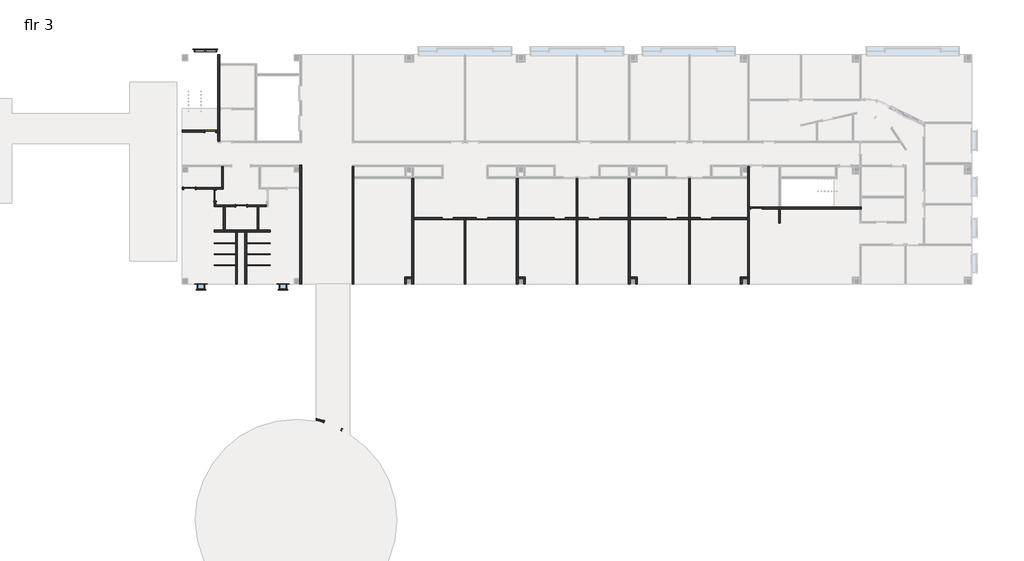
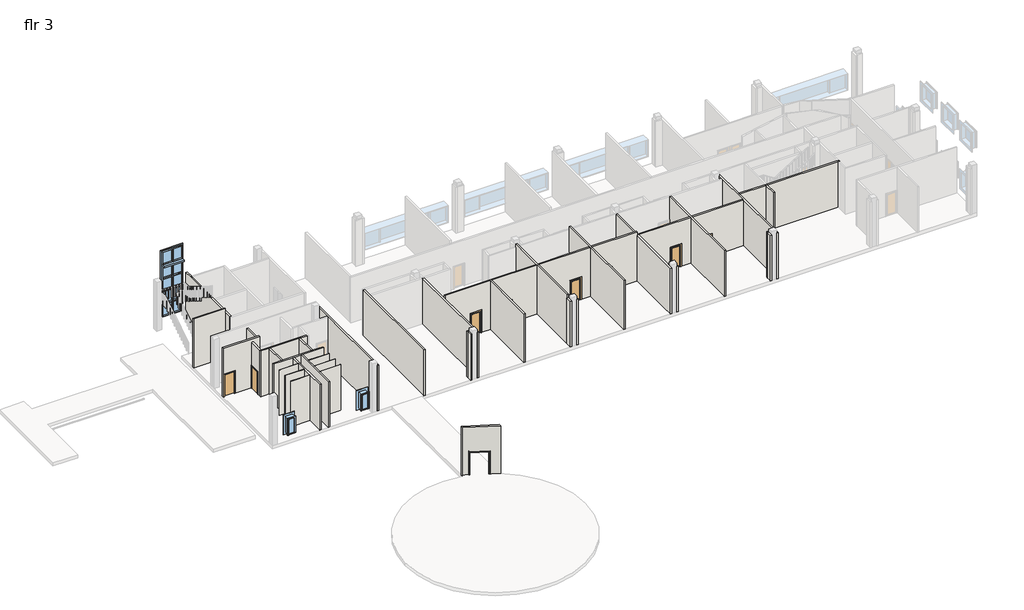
# One storey, part 1 of 4: 44 walls, 12 doors, 3 windows.
"""IFC4 building model written with IfcOpenShell, lengths in millimetres."""

from ifc_helpers import new_model, si_unit, frame, origin, place, context, project, spatial, polyline, circle_curve, outline, extrude, faceted_brep, transform, mapped, element, save
from ifc_brep_helpers import plane_surface, cylinder_surface, revolved_surface, advanced_brep
from components import door_df85aeb6, door_c6edcd30, door_9814c99b, door_e49b49a8, door_4364fc02, fixed_2_x5_0ba76afd, window_5lite_268f9a0f

model = new_model("IFC4")

# Units and contexts
model_context = context("Model", 3, world=origin())
ifc_project = project(units=[si_unit("LENGTHUNIT", "METRE", prefix="MILLI")], contexts=[model_context])

# Site, building, storey
site = spatial("IfcSite", under=ifc_project)
building = spatial("IfcBuilding", under=site)
storey = spatial("IfcBuildingStorey", under=building, Name="flr 3", Elevation=10210.8)

# Doors
placement = place(None, origin())
door_shape = door_df85aeb6(model_context)
element("IfcDoor", 1, ObjectType="Cased Opening : 60\" x 84\"", at=placement, inside=storey, context=model_context, shape_type="MappedRepresentation", body=[
    mapped(door_shape, transform((-103273.0584353, 13519.0184736, 10210.8), x_axis=(0.9064869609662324, -0.4222338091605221, 0.0), y_axis=(0.4222338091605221, 0.9064869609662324, 0.0), z_axis=(0.0, 0.0, 1.0))),
])
door_2_shape = door_c6edcd30(model_context)
element("IfcDoor", 2, ObjectType="Sgl Flush : 36\" x 84\"", at=placement, inside=storey, context=model_context, shape_type="MappedRepresentation", body=[
    mapped(door_2_shape, transform((-113272.240902, 37588.9571029, 10210.8), x_axis=(1.0, 0.0, 0.0), y_axis=(0.0, 1.0, 0.0), z_axis=(0.0, 0.0, 1.0))),
])
element("IfcDoor", 3, ObjectType="Sgl Flush : 36\" x 84\"", at=placement, inside=storey, context=model_context, shape_type="MappedRepresentation", body=[
    mapped(door_2_shape, transform((-112884.890902, 32318.4571029, 10210.8), x_axis=(0.0, 1.0, 0.0), y_axis=(-1.0, 0.0, 0.0), z_axis=(0.0, 0.0, 1.0))),
])
element("IfcDoor", 4, ObjectType="Sgl Flush : 36\" x 84\"", at=placement, inside=storey, context=model_context, shape_type="MappedRepresentation", body=[
    mapped(door_2_shape, transform((-110751.290902, 31480.2571029, 10210.8), x_axis=(1.0, 0.0, 0.0), y_axis=(0.0, 1.0, 0.0), z_axis=(0.0, 0.0, 1.0))),
])
door_3_shape = door_9814c99b(model_context)
element("IfcDoor", 5, ObjectType="Sgl Flush : 36\" x 84\"", at=placement, inside=storey, context=model_context, shape_type="MappedRepresentation", body=[
    mapped(door_3_shape, transform((-114968.0703209, 32928.0571029, 10210.8), x_axis=(-1.0, 0.0, 0.0), y_axis=(0.0, -1.0, 0.0), z_axis=(0.0, 0.0, 1.0))),
])
door_4_shape = door_e49b49a8(model_context)
element("IfcDoor", 6, ObjectType="Sgl-Glass 1 : 36\" x 84\"", at=placement, inside=storey, context=model_context, shape_type="MappedRepresentation", body=[
    mapped(door_4_shape, transform((-72778.290902, 30445.2071029, 10210.8), x_axis=(-1.0, 0.0, 0.0), y_axis=(0.0, -1.0, 0.0), z_axis=(0.0, 0.0, 1.0))),
])
element("IfcDoor", 7, ObjectType="Sgl-Glass 1 : 36\" x 84\"", at=placement, inside=storey, context=model_context, shape_type="MappedRepresentation", body=[
    mapped(door_4_shape, transform((-81922.290902, 30445.2071029, 10210.8), x_axis=(-1.0, 0.0, 0.0), y_axis=(0.0, -1.0, 0.0), z_axis=(0.0, 0.0, 1.0))),
])
element("IfcDoor", 8, ObjectType="Sgl-Glass 1 : 36\" x 84\"", at=placement, inside=storey, context=model_context, shape_type="MappedRepresentation", body=[
    mapped(door_4_shape, transform((-91066.290902, 30445.2071029, 10210.8), x_axis=(-1.0, 0.0, 0.0), y_axis=(0.0, -1.0, 0.0), z_axis=(0.0, 0.0, 1.0))),
])
door_5_shape = door_4364fc02(model_context)
element("IfcDoor", 9, ObjectType="Sgl-Glass 1 : 36\" x 84\"", at=placement, inside=storey, context=model_context, shape_type="MappedRepresentation", body=[
    mapped(door_5_shape, transform((-75572.290902, 30445.2071029, 10210.8), x_axis=(1.0, 0.0, 0.0), y_axis=(0.0, 1.0, 0.0), z_axis=(0.0, 0.0, 1.0))),
])
element("IfcDoor", 10, ObjectType="Sgl-Glass 1 : 36\" x 84\"", at=placement, inside=storey, context=model_context, shape_type="MappedRepresentation", body=[
    mapped(door_5_shape, transform((-84716.290902, 30445.2071029, 10210.8), x_axis=(1.0, 0.0, 0.0), y_axis=(0.0, 1.0, 0.0), z_axis=(0.0, 0.0, 1.0))),
])
element("IfcDoor", 11, ObjectType="Sgl-Glass 1 : 36\" x 84\"", at=placement, inside=storey, context=model_context, shape_type="MappedRepresentation", body=[
    mapped(door_5_shape, transform((-93860.290902, 30445.2071029, 10210.8), x_axis=(1.0, 0.0, 0.0), y_axis=(0.0, 1.0, 0.0), z_axis=(0.0, 0.0, 1.0))),
])
element("IfcDoor", 12, ObjectType="Sgl-Glass 1 : 36\" x 84\"", at=placement, inside=storey, context=model_context, shape_type="MappedRepresentation", body=[
    mapped(door_5_shape, transform((-68644.440902, 31302.4571029, 10210.8), x_axis=(-1.0, 0.0, 0.0), y_axis=(0.0, -1.0, 0.0), z_axis=(0.0, 0.0, 1.0))),
])

# Walls
element("IfcWall", 13, ObjectType="Interior - 4 7/8\" Partition (1-hr)", at=placement, inside=storey, context=model_context, shape_type="SweptSolid", body=[
    extrude(outline(polyline([(-66821.990902, 30083.2571029), (-66821.990902, 31232.6071029), (-66694.990902, 31232.6071029), (-66694.990902, 30083.2571029), (-66821.990902, 30083.2571029)])), frame((0.0, 0.0, 10210.8), z_axis=(0.0, 0.0, 1.0), x_axis=(1.0, 0.0, 0.0)), (0.0, 0.0, 1.0), 4419.6),
])
element("IfcWall", 14, ObjectType="Interior - 5 1/2\" Partition (1-hr)", at=placement, inside=storey, context=model_context, shape_type="Brep", body=[
    faceted_brep([(-105810.990902, 25084.2196029, 10210.8), (-105810.990902, 34826.7071029, 10210.8), (-105810.990902, 34826.7071029, 14630.4), (-105810.990902, 25084.2196029, 14630.4), (-105950.690902, 25084.2196029, 10210.8), (-105950.690902, 25084.2196029, 14630.4), (-105950.690902, 32858.2071029, 14630.4), (-105950.690902, 32997.9071029, 14630.4), (-105950.690902, 34826.7071029, 14630.4), (-105950.690902, 34826.7071029, 10210.8), (-105950.690902, 34687.0071029, 10210.8), (-105950.690902, 32997.9071029, 10210.8), (-105950.690902, 32858.2071029, 10210.8)], [[[0, 1, 2, 3]], [[4, 5, 6, 7, 8, 9, 10, 11, 12]], [[1, 0, 4, 12, 11, 10, 9]], [[2, 1, 9, 8]], [[0, 3, 5, 4]], [[3, 2, 8, 7, 6, 5]]]),
])
element("IfcWall", 15, ObjectType="Interior - 5 1/2\" Partition (1-hr)", at=placement, inside=storey, context=model_context, shape_type="Brep", body=[
    faceted_brep([(-112510.240902, 36795.2071029, 10210.8), (-112510.240902, 39347.9071029, 10210.8), (-112510.240902, 39487.6071029, 10210.8), (-112510.240902, 42980.1071029, 10210.8), (-112510.240902, 43119.8071029, 10210.8), (-112510.240902, 43832.5946029, 10210.8), (-112510.240902, 43832.5946029, 14630.4), (-112510.240902, 43119.8071029, 14630.4), (-112510.240902, 42980.1071029, 14630.4), (-112510.240902, 39487.6071029, 14630.4), (-112510.240902, 39347.9071029, 14630.4), (-112510.240902, 36795.2071029, 14630.4), (-112649.940902, 36795.2071029, 10210.8), (-112649.940902, 36795.2071029, 14630.4), (-112649.940902, 39436.8071029, 14630.4), (-112649.940902, 43119.8071029, 14630.4), (-112649.940902, 43832.5946029, 14630.4), (-112649.940902, 43832.5946029, 10210.8), (-112649.940902, 37658.8071029, 10210.8), (-112649.940902, 37519.1071029, 10210.8)], [[[0, 1, 2, 3, 4, 5, 6, 7, 8, 9, 10, 11]], [[12, 13, 14, 15, 16, 17, 18, 19]], [[5, 4, 3, 2, 1, 0, 12, 19, 18, 17]], [[0, 11, 13, 12]], [[6, 5, 17, 16]], [[7, 6, 16, 15]], [[11, 10, 9, 8, 7, 15, 14, 13]]]),
])
element("IfcWall", 16, ObjectType="Interior - 5 1/2\" Partition (1-hr)", at=placement, inside=storey, context=model_context, shape_type="SweptSolid", body=[
    extrude(outline(polyline([(12344.4, -112815.040902), (10210.8, -112815.040902), (10210.8, -112649.940902), (14935.2, -112649.940902), (14935.2, -115553.8578209), (10210.8, -115553.8578209), (10210.8, -113729.440902), (12344.4, -113729.440902), (12344.4, -112815.040902)])), frame((0.0, 37519.1071029, 0.0), z_axis=(0.0, 1.0, 0.0), x_axis=(0.0, 0.0, 1.0)), (0.0, 0.0, 1.0), 139.7),
])
element("IfcWall", 17, ObjectType="Interior - 5 1/2\" Partition (1-hr)", at=placement, inside=storey, context=model_context, shape_type="Brep", body=[
    faceted_brep([(-115553.8578209, 32858.2071029, 10210.8), (-115425.2703209, 32858.2071029, 10210.8), (-115425.2703209, 32858.2071029, 12344.4), (-114510.8703209, 32858.2071029, 12344.4), (-114510.8703209, 32858.2071029, 10210.8), (-112954.740902, 32858.2071029, 10210.8), (-112815.040902, 32858.2071029, 10210.8), (-112205.440902, 32858.2071029, 10210.8), (-112205.440902, 32858.2071029, 14935.2), (-115553.8578209, 32858.2071029, 14935.2), (-115425.2703209, 32997.9071029, 12344.4), (-115425.2703209, 32997.9071029, 10210.8), (-115553.8578209, 32997.9071029, 10210.8), (-115553.8578209, 32997.9071029, 14935.2), (-112205.440902, 32997.9071029, 14935.2), (-112205.440902, 32997.9071029, 14630.4), (-112205.440902, 32997.9071029, 10210.8), (-112345.140902, 32997.9071029, 10210.8), (-114510.8703209, 32997.9071029, 10210.8), (-114510.8703209, 32997.9071029, 12344.4)], [[[0, 1, 2, 3, 4, 5, 6, 7, 8, 9]], [[10, 11, 12, 13, 14, 15, 16, 17, 18, 19]], [[12, 11, 1, 0]], [[18, 17, 16, 7, 6, 5, 4]], [[9, 8, 14, 13]], [[8, 7, 16, 15, 14]], [[0, 9, 13, 12]], [[2, 1, 11, 10]], [[3, 2, 10, 19]], [[4, 3, 19, 18]]]),
])
element("IfcWall", 18, ObjectType="Interior - 5 1/2\" Partition (1-hr)", at=placement, inside=storey, context=model_context, shape_type="SweptSolid", body=[
    extrude(outline(polyline([(-112205.440902, 34687.0071029), (-112205.440902, 32997.9071029), (-112345.140902, 32997.9071029), (-112345.140902, 34687.0071029), (-112205.440902, 34687.0071029)])), frame((0.0, 0.0, 10210.8), z_axis=(0.0, 0.0, 1.0), x_axis=(1.0, 0.0, 0.0)), (0.0, 0.0, 1.0), 4419.6),
])
element("IfcWall", 19, ObjectType="Interior - 5 1/2\" Partition (1-hr)", at=placement, inside=storey, context=model_context, shape_type="Brep", body=[
    faceted_brep([(-108687.540902, 31550.1071029, 10210.8), (-110294.090902, 31550.1071029, 10210.8), (-110294.090902, 31550.1071029, 12344.4), (-111208.490902, 31550.1071029, 12344.4), (-111208.490902, 31550.1071029, 10210.8), (-112815.040902, 31550.1071029, 10210.8), (-112954.740902, 31550.1071029, 10210.8), (-112954.740902, 31550.1071029, 14630.4), (-112815.040902, 31550.1071029, 14630.4), (-108687.540902, 31550.1071029, 14630.4), (-110294.090902, 31410.4071029, 12344.4), (-110294.090902, 31410.4071029, 10210.8), (-109449.540902, 31410.4071029, 10210.8), (-109309.840902, 31410.4071029, 10210.8), (-108687.540902, 31410.4071029, 10210.8), (-108687.540902, 31410.4071029, 14630.4), (-109309.840902, 31410.4071029, 14630.4), (-109449.540902, 31410.4071029, 14630.4), (-112053.040902, 31410.4071029, 14630.4), (-112192.740902, 31410.4071029, 14630.4), (-112954.740902, 31410.4071029, 14630.4), (-112954.740902, 31410.4071029, 10210.8), (-112192.740902, 31410.4071029, 10210.8), (-112053.040902, 31410.4071029, 10210.8), (-111208.490902, 31410.4071029, 10210.8), (-111208.490902, 31410.4071029, 12344.4)], [[[0, 1, 2, 3, 4, 5, 6, 7, 8, 9]], [[10, 11, 12, 13, 14, 15, 16, 17, 18, 19, 20, 21, 22, 23, 24, 25]], [[14, 13, 12, 11, 1, 0]], [[24, 23, 22, 21, 6, 5, 4]], [[7, 6, 21, 20]], [[0, 9, 15, 14]], [[9, 8, 7, 20, 19, 18, 17, 16, 15]], [[2, 1, 11, 10]], [[3, 2, 10, 25]], [[4, 3, 25, 24]]]),
])
element("IfcWall", 20, ObjectType="Interior - 5 1/2\" Partition (1-hr)", at=placement, inside=storey, context=model_context, shape_type="Brep", body=[
    faceted_brep([(-110440.140902, 29351.4196029, 10210.8), (-110440.140902, 25084.2196029, 10210.8), (-110440.140902, 25084.2196029, 14630.4), (-110440.140902, 29351.4196029, 14630.4), (-110300.440902, 29351.4196029, 10210.8), (-110300.440902, 29351.4196029, 14630.4), (-110300.440902, 28449.7196029, 14630.4), (-110300.440902, 28424.3196029, 14630.4), (-110300.440902, 27535.3196029, 14630.4), (-110300.440902, 27509.9196029, 14630.4), (-110300.440902, 26646.3196029, 14630.4), (-110300.440902, 26620.9196029, 14630.4), (-110300.440902, 25084.2196029, 14630.4), (-110300.440902, 25084.2196029, 10210.8), (-110300.440902, 26620.9196029, 10210.8), (-110300.440902, 26646.3196029, 10210.8), (-110300.440902, 27509.9196029, 10210.8), (-110300.440902, 27535.3196029, 10210.8), (-110300.440902, 28424.3196029, 10210.8), (-110300.440902, 28449.7196029, 10210.8)], [[[0, 1, 2, 3]], [[4, 5, 6, 7, 8, 9, 10, 11, 12, 13, 14, 15, 16, 17, 18, 19]], [[1, 0, 4, 19, 18, 17, 16, 15, 14, 13]], [[0, 3, 5, 4]], [[2, 1, 13, 12]], [[3, 2, 12, 11, 10, 9, 8, 7, 6, 5]]]),
])
element("IfcWall", 21, ObjectType="Interior - 5 1/2\" Partition (1-hr)", at=placement, inside=storey, context=model_context, shape_type="Brep", body=[
    faceted_brep([(-112961.090902, 29351.4196029, 10210.8), (-111202.140902, 29351.4196029, 10210.8), (-111062.440902, 29351.4196029, 10210.8), (-110440.140902, 29351.4196029, 10210.8), (-110300.440902, 29351.4196029, 10210.8), (-108389.090902, 29351.4196029, 10210.8), (-108389.090902, 29351.4196029, 14630.4), (-110300.440902, 29351.4196029, 14630.4), (-110440.140902, 29351.4196029, 14630.4), (-111062.440902, 29351.4196029, 14630.4), (-111202.140902, 29351.4196029, 14630.4), (-112961.090902, 29351.4196029, 14630.4), (-112961.090902, 29491.1196029, 10210.8), (-112961.090902, 29491.1196029, 14630.4), (-112192.740902, 29491.1196029, 14630.4), (-112053.040902, 29491.1196029, 14630.4), (-109449.540902, 29491.1196029, 14630.4), (-109309.840902, 29491.1196029, 14630.4), (-108389.090902, 29491.1196029, 14630.4), (-108389.090902, 29491.1196029, 10210.8), (-109309.840902, 29491.1196029, 10210.8), (-109449.540902, 29491.1196029, 10210.8), (-112053.040902, 29491.1196029, 10210.8), (-112192.740902, 29491.1196029, 10210.8)], [[[0, 1, 2, 3, 4, 5, 6, 7, 8, 9, 10, 11]], [[12, 13, 14, 15, 16, 17, 18, 19, 20, 21, 22, 23]], [[5, 4, 3, 2, 1, 0, 12, 23, 22, 21, 20, 19]], [[6, 5, 19, 18]], [[0, 11, 13, 12]], [[11, 10, 9, 8, 7, 6, 18, 17, 16, 15, 14, 13]]]),
])
element("IfcWall", 22, ObjectType="Interior - 5 1/2\" Partition (1-hr)", at=placement, inside=storey, context=model_context, shape_type="SweptSolid", body=[
    extrude(outline(polyline([(-109309.840902, 31410.4071029), (-109309.840902, 29491.1196029), (-109449.540902, 29491.1196029), (-109449.540902, 31410.4071029), (-109309.840902, 31410.4071029)])), frame((0.0, 0.0, 10210.8), z_axis=(0.0, 0.0, 1.0), x_axis=(1.0, 0.0, 0.0)), (0.0, 0.0, 1.0), 4419.6),
])
element("IfcWall", 23, ObjectType="Interior - 5 1/2\" Partition (1-hr)", at=placement, inside=storey, context=model_context, shape_type="Brep", body=[
    faceted_brep([(-111202.140902, 29351.4196029, 10210.8), (-111202.140902, 28449.7196029, 10210.8), (-111202.140902, 28424.3196029, 10210.8), (-111202.140902, 27535.3196029, 10210.8), (-111202.140902, 27509.9196029, 10210.8), (-111202.140902, 26646.3196029, 10210.8), (-111202.140902, 26620.9196029, 10210.8), (-111202.140902, 25084.2196029, 10210.8), (-111202.140902, 25084.2196029, 14630.4), (-111202.140902, 26620.9196029, 14630.4), (-111202.140902, 26646.3196029, 14630.4), (-111202.140902, 27509.9196029, 14630.4), (-111202.140902, 27535.3196029, 14630.4), (-111202.140902, 28424.3196029, 14630.4), (-111202.140902, 28449.7196029, 14630.4), (-111202.140902, 29351.4196029, 14630.4), (-111062.440902, 29351.4196029, 10210.8), (-111062.440902, 29351.4196029, 14630.4), (-111062.440902, 25084.2196029, 14630.4), (-111062.440902, 25084.2196029, 10210.8)], [[[0, 1, 2, 3, 4, 5, 6, 7, 8, 9, 10, 11, 12, 13, 14, 15]], [[16, 17, 18, 19]], [[7, 6, 5, 4, 3, 2, 1, 0, 16, 19]], [[0, 15, 17, 16]], [[8, 7, 19, 18]], [[15, 14, 13, 12, 11, 10, 9, 8, 18, 17]]]),
])
element("IfcWall", 24, ObjectType="Interior - 5 1/2\" Partition (1-hr)", at=placement, inside=storey, context=model_context, shape_type="SweptSolid", body=[
    extrude(outline(polyline([(32858.2071029, 10210.8), (32775.6571029, 10210.8), (32775.6571029, 12344.4), (31861.2571029, 12344.4), (31861.2571029, 10210.8), (31550.1071029, 10210.8), (31550.1071029, 14630.4), (32858.2071029, 14630.4), (32858.2071029, 10210.8)])), frame((-112954.740902, 0.0, 0.0), z_axis=(1.0, 0.0, 0.0), x_axis=(0.0, 1.0, 0.0)), (0.0, 0.0, 1.0), 139.7),
])
element("IfcWall", 25, ObjectType="Interior - 5 1/2\" Partition (1-hr)", at=placement, inside=storey, context=model_context, shape_type="SweptSolid", body=[
    extrude(outline(polyline([(-112192.740902, 29491.1196029), (-112192.740902, 31410.4071029), (-112053.040902, 31410.4071029), (-112053.040902, 29491.1196029), (-112192.740902, 29491.1196029)])), frame((0.0, 0.0, 10210.8), z_axis=(0.0, 0.0, 1.0), x_axis=(1.0, 0.0, 0.0)), (0.0, 0.0, 1.0), 4419.6),
])
element("IfcWall", 26, ObjectType="Interior - 5 1/2\" Partition (1-hr)", at=placement, inside=storey, context=model_context, shape_type="Brep", body=[
    faceted_brep([(-101677.140902, 34687.0071029, 10210.8), (-101677.140902, 25084.2196029, 10210.8), (-101677.140902, 25084.2196029, 14630.4), (-101677.140902, 34687.0071029, 14630.4), (-101537.440902, 34687.0071029, 10210.8), (-101537.440902, 34687.0071029, 14630.4), (-101537.440902, 33867.8571029, 14630.4), (-101537.440902, 33728.1571029, 14630.4), (-101537.440902, 25084.2196029, 14630.4), (-101537.440902, 25084.2196029, 10210.8), (-101537.440902, 33728.1571029, 10210.8), (-101537.440902, 33867.8571029, 10210.8)], [[[0, 1, 2, 3]], [[4, 5, 6, 7, 8, 9, 10, 11]], [[1, 0, 4, 11, 10, 9]], [[0, 3, 5, 4]], [[2, 1, 9, 8]], [[3, 2, 8, 7, 6, 5]]]),
])
element("IfcWall", 27, ObjectType="Interior - 5 1/2\" Partition (1-hr)", at=placement, inside=storey, context=model_context, shape_type="Brep", body=[
    faceted_brep([(-69234.990902, 31232.6071029, 10210.8), (-69101.640902, 31232.6071029, 10210.8), (-69101.640902, 31232.6071029, 12344.4), (-68187.240902, 31232.6071029, 12344.4), (-68187.240902, 31232.6071029, 10210.8), (-66821.990902, 31232.6071029, 10210.8), (-66694.990902, 31232.6071029, 10210.8), (-60224.340902, 31232.6071029, 10210.8), (-60097.340902, 31232.6071029, 10210.8), (-60090.990902, 31232.6071029, 10210.8), (-60090.990902, 31232.6071029, 14630.4), (-60097.340902, 31232.6071029, 14630.4), (-60224.340902, 31232.6071029, 14630.4), (-66694.990902, 31232.6071029, 14630.4), (-66821.990902, 31232.6071029, 14630.4), (-69234.990902, 31232.6071029, 14630.4), (-69101.640902, 31372.3071029, 12344.4), (-69101.640902, 31372.3071029, 10210.8), (-69234.990902, 31372.3071029, 10210.8), (-69234.990902, 31372.3071029, 14630.4), (-66828.340902, 31372.3071029, 14630.4), (-66688.640902, 31372.3071029, 14630.4), (-60230.690902, 31372.3071029, 14630.4), (-60090.990902, 31372.3071029, 14630.4), (-60090.990902, 31372.3071029, 10210.8), (-60230.690902, 31372.3071029, 10210.8), (-66688.640902, 31372.3071029, 10210.8), (-66828.340902, 31372.3071029, 10210.8), (-68187.240902, 31372.3071029, 10210.8), (-68187.240902, 31372.3071029, 12344.4)], [[[0, 1, 2, 3, 4, 5, 6, 7, 8, 9, 10, 11, 12, 13, 14, 15]], [[16, 17, 18, 19, 20, 21, 22, 23, 24, 25, 26, 27, 28, 29]], [[18, 17, 1, 0]], [[28, 27, 26, 25, 24, 9, 8, 7, 6, 5, 4]], [[10, 9, 24, 23]], [[0, 15, 19, 18]], [[15, 14, 13, 12, 11, 10, 23, 22, 21, 20, 19]], [[2, 1, 17, 16]], [[3, 2, 16, 29]], [[4, 3, 29, 28]]]),
])
element("IfcWall", 28, ObjectType="Interior - 5 1/2\" Partition (1-hr)", at=placement, inside=storey, context=model_context, shape_type="Brep", body=[
    faceted_brep([(-69374.690902, 34687.0071029, 10210.8), (-69374.690902, 33867.8571029, 10210.8), (-69374.690902, 33728.1571029, 10210.8), (-69374.690902, 30515.0571029, 10210.8), (-69374.690902, 30375.3571029, 10210.8), (-69374.690902, 25682.7071029, 10210.8), (-69374.690902, 25543.0071029, 10210.8), (-69374.690902, 25084.2196029, 10210.8), (-69374.690902, 25084.2196029, 14630.4), (-69374.690902, 25543.0071029, 14630.4), (-69374.690902, 25682.7071029, 14630.4), (-69374.690902, 30375.3571029, 14630.4), (-69374.690902, 30515.0571029, 14630.4), (-69374.690902, 33728.1571029, 14630.4), (-69374.690902, 33867.8571029, 14630.4), (-69374.690902, 34687.0071029, 14630.4), (-69234.990902, 34687.0071029, 10210.8), (-69234.990902, 34687.0071029, 14630.4), (-69234.990902, 31372.3071029, 14630.4), (-69234.990902, 31232.6071029, 14630.4), (-69234.990902, 25084.2196029, 14630.4), (-69234.990902, 25084.2196029, 10210.8), (-69234.990902, 31232.6071029, 10210.8), (-69234.990902, 31372.3071029, 10210.8)], [[[0, 1, 2, 3, 4, 5, 6, 7, 8, 9, 10, 11, 12, 13, 14, 15]], [[16, 17, 18, 19, 20, 21, 22, 23]], [[7, 6, 5, 4, 3, 2, 1, 0, 16, 23, 22, 21]], [[8, 7, 21, 20]], [[0, 15, 17, 16]], [[15, 14, 13, 12, 11, 10, 9, 8, 20, 19, 18, 17]]]),
])
element("IfcWall", 29, ObjectType="Interior - 5 1/2\" Partition (1-hr)", at=placement, inside=storey, context=model_context, shape_type="Brep", body=[
    faceted_brep([(-69374.690902, 25682.7071029, 10210.8), (-69971.590902, 25682.7071029, 10210.8), (-69971.590902, 25682.7071029, 14630.4), (-69374.690902, 25682.7071029, 14630.4), (-69374.690902, 25543.0071029, 10210.8), (-69374.690902, 25543.0071029, 14630.4), (-69831.890902, 25543.0071029, 14630.4), (-69971.590902, 25543.0071029, 14630.4), (-69971.590902, 25543.0071029, 10210.8), (-69831.890902, 25543.0071029, 10210.8)], [[[0, 1, 2, 3]], [[4, 5, 6, 7, 8, 9]], [[1, 0, 4, 9, 8]], [[2, 1, 8, 7]], [[0, 3, 5, 4]], [[3, 2, 7, 6, 5]]]),
])
element("IfcWall", 30, ObjectType="Interior - 5 1/2\" Partition (1-hr)", at=placement, inside=storey, context=model_context, shape_type="SweptSolid", body=[
    extrude(outline(polyline([(-69971.590902, 25084.2196029), (-69971.590902, 25543.0071029), (-69831.890902, 25543.0071029), (-69831.890902, 25084.2196029), (-69971.590902, 25084.2196029)])), frame((0.0, 0.0, 10210.8), z_axis=(0.0, 0.0, 1.0), x_axis=(1.0, 0.0, 0.0)), (0.0, 0.0, 1.0), 4419.6),
])
element("IfcWall", 31, ObjectType="Interior - 5 1/2\" Partition (1-hr)", at=placement, inside=storey, context=model_context, shape_type="Brep", body=[
    faceted_brep([(-79115.590902, 33728.1571029, 10210.8), (-79115.590902, 30515.0571029, 10210.8), (-79115.590902, 30375.3571029, 10210.8), (-79115.590902, 25084.2196029, 10210.8), (-79115.590902, 25084.2196029, 14630.4), (-79115.590902, 33728.1571029, 14630.4), (-78975.890902, 33728.1571029, 10210.8), (-78975.890902, 33728.1571029, 14630.4), (-78975.890902, 30515.0571029, 14630.4), (-78975.890902, 30375.3571029, 14630.4), (-78975.890902, 25682.7071029, 14630.4), (-78975.890902, 25543.0071029, 14630.4), (-78975.890902, 25084.2196029, 14630.4), (-78975.890902, 25084.2196029, 10210.8), (-78975.890902, 25543.0071029, 10210.8), (-78975.890902, 25682.7071029, 10210.8), (-78975.890902, 30375.3571029, 10210.8), (-78975.890902, 30515.0571029, 10210.8)], [[[0, 1, 2, 3, 4, 5]], [[6, 7, 8, 9, 10, 11, 12, 13, 14, 15, 16, 17]], [[3, 2, 1, 0, 6, 17, 16, 15, 14, 13]], [[0, 5, 7, 6]], [[4, 3, 13, 12]], [[5, 4, 12, 11, 10, 9, 8, 7]]]),
])
element("IfcWall", 32, ObjectType="Interior - 5 1/2\" Partition (1-hr)", at=placement, inside=storey, context=model_context, shape_type="Brep", body=[
    faceted_brep([(-78975.890902, 25543.0071029, 10210.8), (-78518.690902, 25543.0071029, 10210.8), (-78378.990902, 25543.0071029, 10210.8), (-78378.990902, 25543.0071029, 14630.4), (-78518.690902, 25543.0071029, 14630.4), (-78975.890902, 25543.0071029, 14630.4), (-78975.890902, 25682.7071029, 10210.8), (-78975.890902, 25682.7071029, 14630.4), (-78378.990902, 25682.7071029, 14630.4), (-78378.990902, 25682.7071029, 10210.8)], [[[0, 1, 2, 3, 4, 5]], [[6, 7, 8, 9]], [[2, 1, 0, 6, 9]], [[3, 2, 9, 8]], [[0, 5, 7, 6]], [[5, 4, 3, 8, 7]]]),
])
element("IfcWall", 33, ObjectType="Interior - 5 1/2\" Partition (1-hr)", at=placement, inside=storey, context=model_context, shape_type="SweptSolid", body=[
    extrude(outline(polyline([(-78518.690902, 25084.2196029), (-78518.690902, 25543.0071029), (-78378.990902, 25543.0071029), (-78378.990902, 25084.2196029), (-78518.690902, 25084.2196029)])), frame((0.0, 0.0, 10210.8), z_axis=(0.0, 0.0, 1.0), x_axis=(1.0, 0.0, 0.0)), (0.0, 0.0, 1.0), 4419.6),
])
element("IfcWall", 34, ObjectType="Interior - 5 1/2\" Partition (1-hr)", at=placement, inside=storey, context=model_context, shape_type="Brep", body=[
    faceted_brep([(-96806.690902, 33728.1571029, 10210.8), (-96806.690902, 25682.7071029, 10210.8), (-96806.690902, 25543.0071029, 10210.8), (-96806.690902, 25084.2196029, 10210.8), (-96806.690902, 25084.2196029, 14630.4), (-96806.690902, 25543.0071029, 14630.4), (-96806.690902, 25682.7071029, 14630.4), (-96806.690902, 33728.1571029, 14630.4), (-96666.990902, 33728.1571029, 10210.8), (-96666.990902, 33728.1571029, 14630.4), (-96666.990902, 25084.2196029, 14630.4), (-96666.990902, 25084.2196029, 10210.8), (-96666.990902, 30375.3571029, 10210.8), (-96666.990902, 30515.0571029, 10210.8)], [[[0, 1, 2, 3, 4, 5, 6, 7]], [[8, 9, 10, 11, 12, 13]], [[3, 2, 1, 0, 8, 13, 12, 11]], [[4, 3, 11, 10]], [[0, 7, 9, 8]], [[7, 6, 5, 4, 10, 9]]]),
])
element("IfcWall", 35, ObjectType="Interior - 5 1/2\" Partition (1-hr)", at=placement, inside=storey, context=model_context, shape_type="Brep", body=[
    faceted_brep([(-96806.690902, 25682.7071029, 10210.8), (-97403.590902, 25682.7071029, 10210.8), (-97403.590902, 25682.7071029, 14630.4), (-96806.690902, 25682.7071029, 14630.4), (-96806.690902, 25543.0071029, 10210.8), (-96806.690902, 25543.0071029, 14630.4), (-97263.890902, 25543.0071029, 14630.4), (-97403.590902, 25543.0071029, 14630.4), (-97403.590902, 25543.0071029, 10210.8), (-97263.890902, 25543.0071029, 10210.8)], [[[0, 1, 2, 3]], [[4, 5, 6, 7, 8, 9]], [[1, 0, 4, 9, 8]], [[2, 1, 8, 7]], [[0, 3, 5, 4]], [[3, 2, 7, 6, 5]]]),
])
element("IfcWall", 36, ObjectType="Interior - 5 1/2\" Partition (1-hr)", at=placement, inside=storey, context=model_context, shape_type="SweptSolid", body=[
    extrude(outline(polyline([(-97403.590902, 25084.2196029), (-97403.590902, 25543.0071029), (-97263.890902, 25543.0071029), (-97263.890902, 25084.2196029), (-97403.590902, 25084.2196029)])), frame((0.0, 0.0, 10210.8), z_axis=(0.0, 0.0, 1.0), x_axis=(1.0, 0.0, 0.0)), (0.0, 0.0, 1.0), 4419.6),
])
element("IfcWall", 37, ObjectType="Interior - 5 1/2\" Partition (1-hr)", at=placement, inside=storey, context=model_context, shape_type="Brep", body=[
    faceted_brep([(-88119.890902, 25084.2196029, 10210.8), (-88119.890902, 25543.0071029, 10210.8), (-88119.890902, 25682.7071029, 10210.8), (-88119.890902, 25682.7071029, 14630.4), (-88119.890902, 25543.0071029, 14630.4), (-88119.890902, 25084.2196029, 14630.4), (-88259.590902, 25084.2196029, 10210.8), (-88259.590902, 25084.2196029, 14630.4), (-88259.590902, 25682.7071029, 14630.4), (-88259.590902, 25682.7071029, 10210.8)], [[[0, 1, 2, 3, 4, 5]], [[6, 7, 8, 9]], [[2, 1, 0, 6, 9]], [[3, 2, 9, 8]], [[0, 5, 7, 6]], [[5, 4, 3, 8, 7]]]),
])
element("IfcWall", 38, ObjectType="Interior - 5 1/2\" Partition (1-hr)", at=placement, inside=storey, context=model_context, shape_type="Brep", body=[
    faceted_brep([(-88119.890902, 25543.0071029, 10210.8), (-87662.690902, 25543.0071029, 10210.8), (-87522.990902, 25543.0071029, 10210.8), (-87522.990902, 25543.0071029, 14630.4), (-87662.690902, 25543.0071029, 14630.4), (-88119.890902, 25543.0071029, 14630.4), (-88119.890902, 25682.7071029, 10210.8), (-88119.890902, 25682.7071029, 14630.4), (-87522.990902, 25682.7071029, 14630.4), (-87522.990902, 25682.7071029, 10210.8)], [[[0, 1, 2, 3, 4, 5]], [[6, 7, 8, 9]], [[2, 1, 0, 6, 9]], [[3, 2, 9, 8]], [[0, 5, 7, 6]], [[5, 4, 3, 8, 7]]]),
])
element("IfcWall", 39, ObjectType="Interior - 5 1/2\" Partition (1-hr)", at=placement, inside=storey, context=model_context, shape_type="SweptSolid", body=[
    extrude(outline(polyline([(-87662.690902, 25084.2196029), (-87662.690902, 25543.0071029), (-87522.990902, 25543.0071029), (-87522.990902, 25084.2196029), (-87662.690902, 25084.2196029)])), frame((0.0, 0.0, 10210.8), z_axis=(0.0, 0.0, 1.0), x_axis=(1.0, 0.0, 0.0)), (0.0, 0.0, 1.0), 4419.6),
])
element("IfcWall", 40, ObjectType="Interior - 5 1/2\" Partition (1-hr)", at=placement, inside=storey, context=model_context, shape_type="Brep", body=[
    faceted_brep([(-74194.340902, 33728.1571029, 10210.8), (-74194.340902, 30515.0571029, 10210.8), (-74194.340902, 30375.3571029, 10210.8), (-74194.340902, 25084.2196029, 10210.8), (-74194.340902, 25084.2196029, 14630.4), (-74194.340902, 30375.3571029, 14630.4), (-74194.340902, 30515.0571029, 14630.4), (-74194.340902, 33728.1571029, 14630.4), (-74054.640902, 33728.1571029, 10210.8), (-74054.640902, 33728.1571029, 14630.4), (-74054.640902, 30515.0571029, 14630.4), (-74054.640902, 30375.3571029, 14630.4), (-74054.640902, 25084.2196029, 14630.4), (-74054.640902, 25084.2196029, 10210.8), (-74054.640902, 30375.3571029, 10210.8), (-74054.640902, 30515.0571029, 10210.8)], [[[0, 1, 2, 3, 4, 5, 6, 7]], [[8, 9, 10, 11, 12, 13, 14, 15]], [[3, 2, 1, 0, 8, 15, 14, 13]], [[0, 7, 9, 8]], [[4, 3, 13, 12]], [[7, 6, 5, 4, 12, 11, 10, 9]]]),
])
element("IfcWall", 41, ObjectType="Interior - 5 1/2\" Partition (1-hr)", at=placement, inside=storey, context=model_context, shape_type="SweptSolid", body=[
    extrude(outline(polyline([(12344.4, -75115.090902), (10210.8, -75115.090902), (10210.8, -74194.340902), (14630.4, -74194.340902), (14630.4, -78975.890902), (10210.8, -78975.890902), (10210.8, -76029.490902), (12344.4, -76029.490902), (12344.4, -75115.090902)])), frame((0.0, 30375.3571029, 0.0), z_axis=(0.0, 1.0, 0.0), x_axis=(0.0, 0.0, 1.0)), (0.0, 0.0, 1.0), 139.7),
])
element("IfcWall", 42, ObjectType="Interior - 5 1/2\" Partition (1-hr)", at=placement, inside=storey, context=model_context, shape_type="SweptSolid", body=[
    extrude(outline(polyline([(10210.8, -74054.640902), (10210.8, -73235.490902), (12344.4, -73235.490902), (12344.4, -72321.090902), (10210.8, -72321.090902), (10210.8, -69374.690902), (14630.4, -69374.690902), (14630.4, -74054.640902), (10210.8, -74054.640902)])), frame((0.0, 30375.3571029, 0.0), z_axis=(0.0, 1.0, 0.0), x_axis=(0.0, 0.0, 1.0)), (0.0, 0.0, 1.0), 139.7),
])
element("IfcWall", 43, ObjectType="Interior - 5 1/2\" Partition (1-hr)", at=placement, inside=storey, context=model_context, shape_type="Brep", body=[
    faceted_brep([(-88259.590902, 33728.1571029, 10210.8), (-88259.590902, 30515.0571029, 10210.8), (-88259.590902, 30375.3571029, 10210.8), (-88259.590902, 25682.7071029, 10210.8), (-88259.590902, 25682.7071029, 14630.4), (-88259.590902, 25682.7071029, 14935.2), (-88259.590902, 30375.3571029, 14935.2), (-88259.590902, 30515.0571029, 14935.2), (-88259.590902, 33728.1571029, 14935.2), (-88119.890902, 33728.1571029, 10210.8), (-88119.890902, 33728.1571029, 14935.2), (-88119.890902, 30515.0571029, 14935.2), (-88119.890902, 30375.3571029, 14935.2), (-88119.890902, 25682.7071029, 14935.2), (-88119.890902, 25682.7071029, 14630.4), (-88119.890902, 25682.7071029, 10210.8), (-88119.890902, 30375.3571029, 10210.8), (-88119.890902, 30515.0571029, 10210.8)], [[[0, 1, 2, 3, 4, 5, 6, 7, 8]], [[9, 10, 11, 12, 13, 14, 15, 16, 17]], [[3, 2, 1, 0, 9, 17, 16, 15]], [[8, 7, 6, 5, 13, 12, 11, 10]], [[0, 8, 10, 9]], [[5, 4, 3, 15, 14, 13]]]),
])
element("IfcWall", 44, ObjectType="Interior - 5 1/2\" Partition (1-hr)", at=placement, inside=storey, context=model_context, shape_type="Brep", body=[
    faceted_brep([(-83389.140902, 33728.1571029, 10210.8), (-83389.140902, 30515.0571029, 10210.8), (-83389.140902, 30375.3571029, 10210.8), (-83389.140902, 25084.2196029, 10210.8), (-83389.140902, 25084.2196029, 14935.2), (-83389.140902, 30375.3571029, 14935.2), (-83389.140902, 30515.0571029, 14935.2), (-83389.140902, 33728.1571029, 14935.2), (-83249.440902, 33728.1571029, 10210.8), (-83249.440902, 33728.1571029, 14935.2), (-83249.440902, 30515.0571029, 14935.2), (-83249.440902, 30375.3571029, 14935.2), (-83249.440902, 25084.2196029, 14935.2), (-83249.440902, 25084.2196029, 10210.8), (-83249.440902, 30375.3571029, 10210.8), (-83249.440902, 30515.0571029, 10210.8)], [[[0, 1, 2, 3, 4, 5, 6, 7]], [[8, 9, 10, 11, 12, 13, 14, 15]], [[3, 2, 1, 0, 8, 15, 14, 13]], [[7, 6, 5, 4, 12, 11, 10, 9]], [[4, 3, 13, 12]], [[0, 7, 9, 8]]]),
])
element("IfcWall", 45, ObjectType="Interior - 5 1/2\" Partition (1-hr)", at=placement, inside=storey, context=model_context, shape_type="SweptSolid", body=[
    extrude(outline(polyline([(12344.4, -84259.090902), (10210.8, -84259.090902), (10210.8, -83389.140902), (14935.2, -83389.140902), (14935.2, -88119.890902), (10210.8, -88119.890902), (10210.8, -85173.490902), (12344.4, -85173.490902), (12344.4, -84259.090902)])), frame((0.0, 30375.3571029, 0.0), z_axis=(0.0, 1.0, 0.0), x_axis=(0.0, 0.0, 1.0)), (0.0, 0.0, 1.0), 139.7),
])
element("IfcWall", 46, ObjectType="Interior - 5 1/2\" Partition (1-hr)", at=placement, inside=storey, context=model_context, shape_type="SweptSolid", body=[
    extrude(outline(polyline([(10210.8, -83249.440902), (10210.8, -82379.490902), (12344.4, -82379.490902), (12344.4, -81465.090902), (10210.8, -81465.090902), (10210.8, -79115.590902), (14935.2, -79115.590902), (14935.2, -83249.440902), (10210.8, -83249.440902)])), frame((0.0, 30375.3571029, 0.0), z_axis=(0.0, 1.0, 0.0), x_axis=(0.0, 0.0, 1.0)), (0.0, 0.0, 1.0), 139.7),
])
element("IfcWall", 47, ObjectType="Interior - 5 1/2\" Partition (1-hr)", at=placement, inside=storey, context=model_context, shape_type="Brep", body=[
    faceted_brep([(-92533.140902, 30515.0571029, 10210.8), (-92533.140902, 30375.3571029, 10210.8), (-92533.140902, 25084.2196029, 10210.8), (-92533.140902, 25084.2196029, 14935.2), (-92533.140902, 30375.3571029, 14935.2), (-92533.140902, 30515.0571029, 14935.2), (-92393.440902, 30515.0571029, 10210.8), (-92393.440902, 30515.0571029, 14935.2), (-92393.440902, 30375.3571029, 14935.2), (-92393.440902, 25084.2196029, 14935.2), (-92393.440902, 25084.2196029, 10210.8), (-92393.440902, 30375.3571029, 10210.8)], [[[0, 1, 2, 3, 4, 5]], [[6, 7, 8, 9, 10, 11]], [[2, 1, 0, 6, 11, 10]], [[5, 4, 3, 9, 8, 7]], [[0, 5, 7, 6]], [[3, 2, 10, 9]]]),
])
element("IfcWall", 48, ObjectType="Interior - 5 1/2\" Partition (1-hr)", at=placement, inside=storey, context=model_context, shape_type="SweptSolid", body=[
    extrude(outline(polyline([(12344.4, -93403.090902), (10210.8, -93403.090902), (10210.8, -92533.140902), (14935.2, -92533.140902), (14935.2, -96666.990902), (10210.8, -96666.990902), (10210.8, -94317.490902), (12344.4, -94317.490902), (12344.4, -93403.090902)])), frame((0.0, 30375.3571029, 0.0), z_axis=(0.0, 1.0, 0.0), x_axis=(0.0, 0.0, 1.0)), (0.0, 0.0, 1.0), 139.7),
])
element("IfcWall", 49, ObjectType="Interior - 5 1/2\" Partition (1-hr)", at=placement, inside=storey, context=model_context, shape_type="SweptSolid", body=[
    extrude(outline(polyline([(10210.8, -92393.440902), (10210.8, -91523.490902), (12344.4, -91523.490902), (12344.4, -90609.090902), (10210.8, -90609.090902), (10210.8, -88259.590902), (14935.2, -88259.590902), (14935.2, -92393.440902), (10210.8, -92393.440902)])), frame((0.0, 30375.3571029, 0.0), z_axis=(0.0, 1.0, 0.0), x_axis=(0.0, 0.0, 1.0)), (0.0, 0.0, 1.0), 139.7),
])
element("IfcWall", 50, ObjectType="Interior - 5 1/2\" Partition (1-hr)", at=placement, inside=storey, context=model_context, shape_type="AdvancedBrep", body=[
    advanced_brep(
    [(-104601.6574925, 13948.6029275, 14935.2), (-101864.8074925, 12602.587722, 14935.2), (-101864.8074925, 12781.8348245, 14935.2), (-104601.6574925, 14091.9595849, 14935.2), (-101864.8074925, 12602.587722, 10210.8), (-102612.1816105, 13133.1569628, 10210.8), (-102552.8223395, 13260.5944252, 10210.8), (-101864.8074925, 12781.8348245, 10210.8), (-103993.667739, 13776.641288, 10210.8), (-104601.6574925, 13948.6029275, 10210.8), (-104601.6574925, 14091.9595849, 10210.8), (-103934.308468, 13904.0787504, 10210.8), (-102612.1816105, 13133.1569628, 12344.4), (-103993.667739, 13776.641288, 12344.4), (-102552.8223395, 13260.5944252, 12344.4), (-103934.308468, 13904.0787504, 12344.4)],
    [
        (0, 1, circle_curve(frame((-106129.0567994, 7387.5216076, 14935.2), z_axis=(0.0, 0.0, -1.0), x_axis=(1.0, 0.0, 0.0)), 6736.5225992)),
        (1, 2),
        (2, 3, circle_curve(frame((-106129.0567994, 7387.5216076, 14935.2), z_axis=(0.0, 0.0, 1.0), x_axis=(1.0, 0.0, 0.0)), 6876.2225992)),
        (3, 0),
        (4, 5, circle_curve(frame((-106129.0567994, 7387.5216076, 10210.8), z_axis=(0.0, 0.0, 1.0), x_axis=(1.0, 0.0, 0.0)), 6736.5225992)),
        (5, 6),
        (6, 7, circle_curve(frame((-106129.0567994, 7387.5216076, 10210.8), z_axis=(0.0, 0.0, -1.0), x_axis=(1.0, 0.0, 0.0)), 6876.2225992)),
        (7, 4),
        (8, 9, circle_curve(frame((-106129.0567994, 7387.5216076, 10210.8), z_axis=(0.0, 0.0, 1.0), x_axis=(1.0, 0.0, 0.0)), 6736.5225992)),
        (9, 10),
        (10, 11, circle_curve(frame((-106129.0567994, 7387.5216076, 10210.8), z_axis=(0.0, 0.0, -1.0), x_axis=(1.0, 0.0, 0.0)), 6876.2225992)),
        (11, 8),
        (12, 5),
        (4, 1),
        (0, 9),
        (8, 13),
        (13, 12, circle_curve(frame((-106129.0567994, 7387.5216076, 12344.4), z_axis=(0.0, 0.0, -1.0), x_axis=(1.0, 0.0, 0.0)), 6736.5225992)),
        (6, 14),
        (14, 15, circle_curve(frame((-106129.0567994, 7387.5216076, 12344.4), z_axis=(0.0, 0.0, 1.0), x_axis=(1.0, 0.0, 0.0)), 6876.2225992)),
        (15, 11),
        (10, 3),
        (2, 7),
        (12, 14),
        (13, 15),
    ],
    [
        plane_surface(frame((-99392.5342002, 7387.5216076, 14935.2), z_axis=(0.0, 0.0, 1.0), x_axis=(0.0, -1.0, 0.0))),
        plane_surface(frame((-99392.5342002, 7387.5216076, 10210.8), z_axis=(0.0, 0.0, -1.0), x_axis=(0.0, 1.0, 0.0))),
        revolved_surface(polyline([(-99392.5342002, 7387.5216076, 10210.8), (-99392.5342002, 7387.5216076, 14935.2)]), (-106129.0567994, 7387.5216076, 10210.8), (0.0, 0.0, -1.0)),
        cylinder_surface(frame((-106129.0567994, 7387.5216076, 10210.8), z_axis=(0.0, 0.0, 1.0), x_axis=(1.0, 0.0, 0.0)), 6876.2225992),
        plane_surface(frame((-101864.8074925, 13169.9830725, -304.8), z_axis=(1.0, 0.0, 0.0), x_axis=(0.0, -1.0, 0.0))),
        plane_surface(frame((-104601.6574925, 14054.2153931, -304.8), z_axis=(-1.0, 0.0, 0.0), x_axis=(0.0, 1.0, 0.0))),
        plane_surface(frame((-102552.8223395, 13260.5944252, 10210.8), z_axis=(-0.9064869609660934, 0.4222338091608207, 0.0), x_axis=(-0.4222338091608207, -0.9064869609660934, 0.0))),
        plane_surface(frame((-102552.8223395, 13260.5944252, 12344.4), z_axis=(0.0, 0.0, -1.0), x_axis=(-0.4222338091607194, -0.9064869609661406, 0.0))),
        plane_surface(frame((-103934.308468, 13904.0787504, 12344.4), z_axis=(0.9064869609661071, -0.42223380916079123, 0.0), x_axis=(-0.42223380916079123, -0.9064869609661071, 0.0))),
    ],
    [
        (0, [[1, 2, 3, 4]]),
        (1, [[5, 6, 7, 8]]),
        (1, [[9, 10, 11, 12]]),
        (2, [[13, -5, 14, -1, 15, -9, 16, 17]]),
        (3, [[-7, 18, 19, 20, -11, 21, -3, 22]]),
        (4, [[-2, -14, -8, -22]]),
        (5, [[-4, -21, -10, -15]]),
        (6, [[-18, -6, -13, 23]]),
        (7, [[-19, -23, -17, 24]]),
        (8, [[-20, -24, -16, -12]]),
    ],
),
])
element("IfcWall", 51, ObjectType="toilet partition - 1\"", at=placement, inside=storey, context=model_context, shape_type="SweptSolid", body=[
    extrude(outline(polyline([(-108389.090902, 26620.9196029), (-110300.440902, 26620.9196029), (-110300.440902, 26646.3196029), (-108389.090902, 26646.3196029), (-108389.090902, 26620.9196029)])), frame((0.0, 0.0, 10210.8), z_axis=(0.0, 0.0, 1.0), x_axis=(1.0, 0.0, 0.0)), (0.0, 0.0, 1.0), 4419.6),
])
element("IfcWall", 52, ObjectType="toilet partition - 1\"", at=placement, inside=storey, context=model_context, shape_type="SweptSolid", body=[
    extrude(outline(polyline([(-108389.090902, 27509.9196029), (-110300.440902, 27509.9196029), (-110300.440902, 27535.3196029), (-108389.090902, 27535.3196029), (-108389.090902, 27509.9196029)])), frame((0.0, 0.0, 10210.8), z_axis=(0.0, 0.0, 1.0), x_axis=(1.0, 0.0, 0.0)), (0.0, 0.0, 1.0), 4419.6),
])
element("IfcWall", 53, ObjectType="toilet partition - 1\"", at=placement, inside=storey, context=model_context, shape_type="SweptSolid", body=[
    extrude(outline(polyline([(-108389.090902, 28424.3196029), (-110300.440902, 28424.3196029), (-110300.440902, 28449.7196029), (-108389.090902, 28449.7196029), (-108389.090902, 28424.3196029)])), frame((0.0, 0.0, 10210.8), z_axis=(0.0, 0.0, 1.0), x_axis=(1.0, 0.0, 0.0)), (0.0, 0.0, 1.0), 4419.6),
])
element("IfcWall", 54, ObjectType="toilet partition - 1\"", at=placement, inside=storey, context=model_context, shape_type="SweptSolid", body=[
    extrude(outline(polyline([(-112961.090902, 28449.7196029), (-111202.140902, 28449.7196029), (-111202.140902, 28424.3196029), (-112961.090902, 28424.3196029), (-112961.090902, 28449.7196029)])), frame((0.0, 0.0, 10210.8), z_axis=(0.0, 0.0, 1.0), x_axis=(1.0, 0.0, 0.0)), (0.0, 0.0, 1.0), 4419.6),
])
element("IfcWall", 55, ObjectType="toilet partition - 1\"", at=placement, inside=storey, context=model_context, shape_type="SweptSolid", body=[
    extrude(outline(polyline([(-112961.090902, 27535.3196029), (-111202.140902, 27535.3196029), (-111202.140902, 27509.9196029), (-112961.090902, 27509.9196029), (-112961.090902, 27535.3196029)])), frame((0.0, 0.0, 10210.8), z_axis=(0.0, 0.0, 1.0), x_axis=(1.0, 0.0, 0.0)), (0.0, 0.0, 1.0), 4419.6),
])
element("IfcWall", 56, ObjectType="toilet partition - 1\"", at=placement, inside=storey, context=model_context, shape_type="SweptSolid", body=[
    extrude(outline(polyline([(-112961.090902, 26646.3196029), (-111202.140902, 26646.3196029), (-111202.140902, 26620.9196029), (-112961.090902, 26620.9196029), (-112961.090902, 26646.3196029)])), frame((0.0, 0.0, 10210.8), z_axis=(0.0, 0.0, 1.0), x_axis=(1.0, 0.0, 0.0)), (0.0, 0.0, 1.0), 4419.6),
])

# Windows
fixed_2_x5_shape = fixed_2_x5_0ba76afd(model_context)
element("IfcWindow", 57, ObjectType="Fixed : 2'x5'", at=placement, inside=storey, context=model_context, shape_type="MappedRepresentation", body=[
    mapped(fixed_2_x5_shape, transform((-107366.740902, 24857.2071029, 10210.8), x_axis=(-1.0, 0.0, 0.0), y_axis=(0.0, -1.0, 0.0), z_axis=(0.0, 0.0, 1.0))),
])
element("IfcWindow", 58, ObjectType="Fixed : 2'x5'", at=placement, inside=storey, context=model_context, shape_type="MappedRepresentation", body=[
    mapped(fixed_2_x5_shape, transform((-114072.340902, 24857.2071029, 10210.8), x_axis=(-1.0, 0.0, 0.0), y_axis=(0.0, -1.0, 0.0), z_axis=(0.0, 0.0, 1.0))),
])
window_5lite_shape = window_5lite_268f9a0f(model_context)
element("IfcWindow", 59, ObjectType="window-5lite : 20'-6\" x 4'v x 6'to2'-4\"h", at=placement, inside=storey, context=model_context, shape_type="MappedRepresentation", body=[
    mapped(window_5lite_shape, transform((-113838.270289, 44059.6071029, 10210.8), x_axis=(1.0, 0.0, 0.0), y_axis=(0.0, 1.0, 0.0), z_axis=(0.0, 0.0, 1.0))),
])

save(model, "model.ifc")
